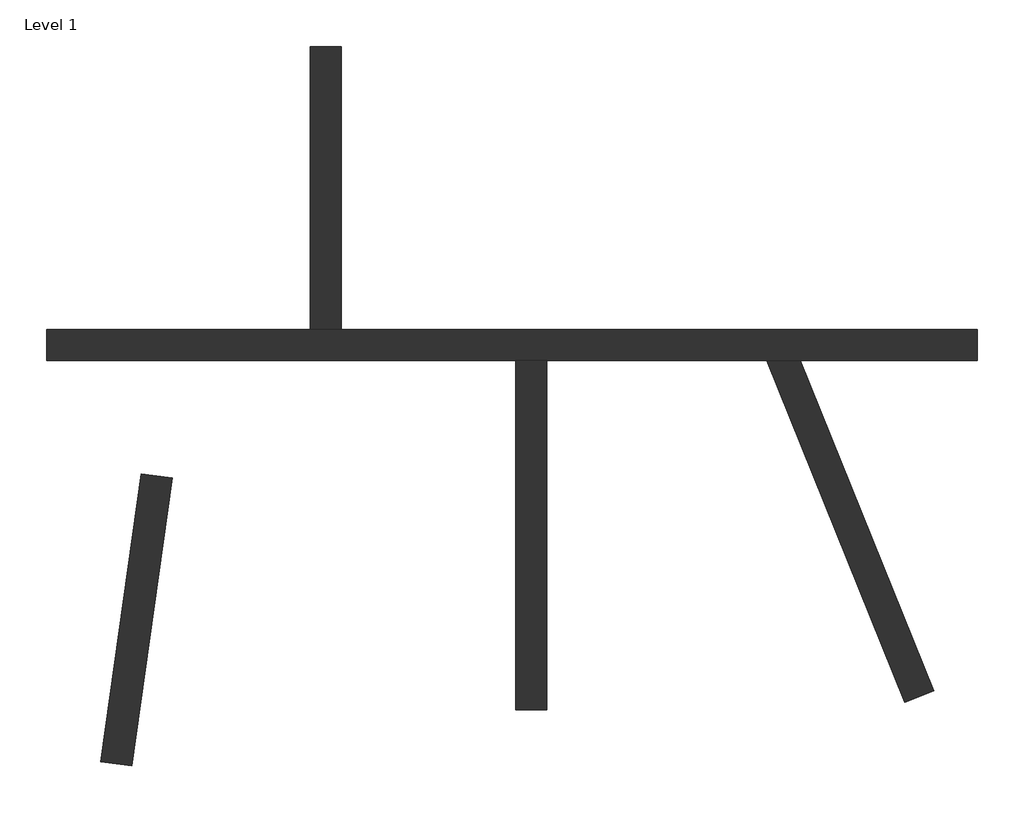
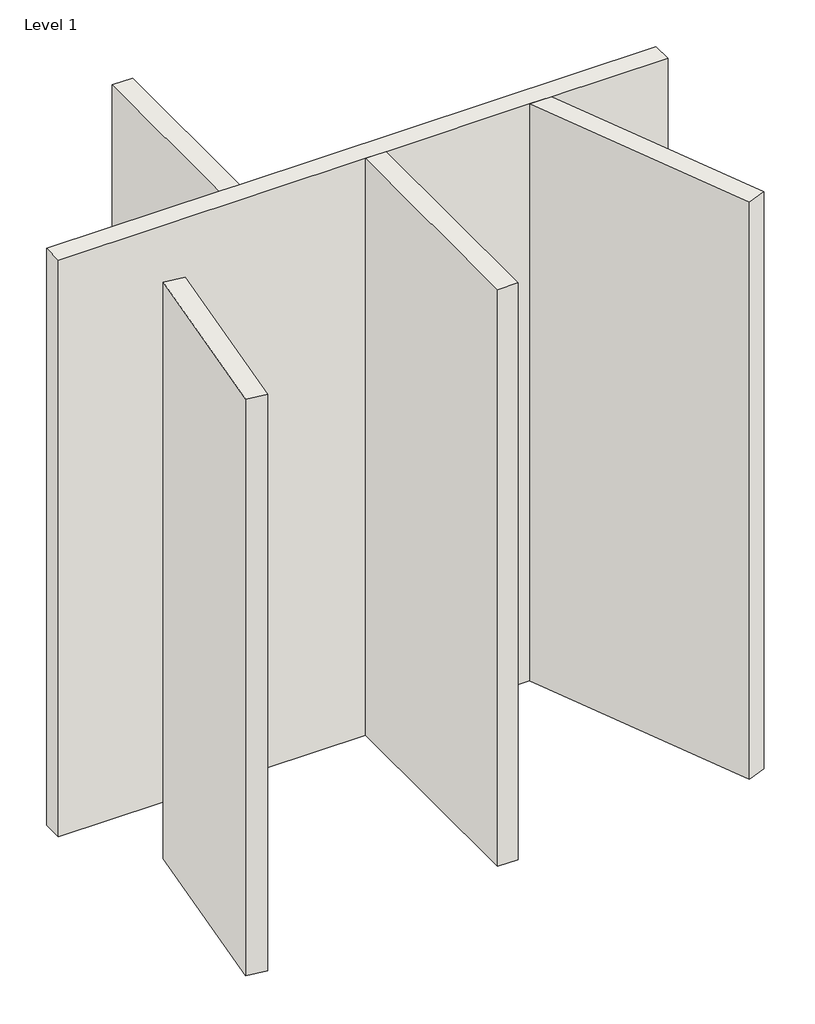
# One storey: 5 walls.
"""IFC4 building model written with IfcOpenShell, lengths in millimetres."""

from ifc_helpers import new_model, si_unit, origin, origin_with_axes, place, context, project, spatial, polyline, outline, extrude, faceted_brep, element, save

model = new_model("IFC4")

# Units and contexts
model_context = context("Model", 3, world=origin())
ifc_project = project(units=[si_unit("LENGTHUNIT", "METRE", prefix="MILLI")], contexts=[model_context])

# Site, building, storey
site = spatial("IfcSite", under=ifc_project)
building = spatial("IfcBuilding", under=site)
storey = spatial("IfcBuildingStorey", under=building, Name="Level 1", Elevation=0.0)

# Walls
placement = place(None, origin())
element("IfcWall", 1, ObjectType="Generic - 8\"", at=placement, inside=storey, context=model_context, shape_type="Brep", body=[
    faceted_brep([(-2311.6602902, -741.8838621, 0.0), (761.7397098, -741.8838621, 0.0), (964.9397098, -741.8838621, 0.0), (2404.0295523, -741.8838621, 0.0), (2623.187812, -741.8838621, 0.0), (3784.3397098, -741.8838621, 0.0), (3784.3397098, -741.8838621, 6096.0), (2623.187812, -741.8838621, 6096.0), (2404.0295523, -741.8838621, 6096.0), (964.9397098, -741.8838621, 6096.0), (761.7397098, -741.8838621, 6096.0), (-2311.6602902, -741.8838621, 6096.0), (-2311.6602902, -538.6838621, 0.0), (-2311.6602902, -538.6838621, 6096.0), (-584.4602902, -538.6838621, 6096.0), (-381.2602902, -538.6838621, 6096.0), (3784.3397098, -538.6838621, 6096.0), (3784.3397098, -538.6838621, 0.0), (-381.2602902, -538.6838621, 0.0), (-584.4602902, -538.6838621, 0.0)], [[[0, 1, 2, 3, 4, 5, 6, 7, 8, 9, 10, 11]], [[12, 13, 14, 15, 16, 17, 18, 19]], [[5, 4, 3, 2, 1, 0, 12, 19, 18, 17]], [[6, 5, 17, 16]], [[11, 10, 9, 8, 7, 6, 16, 15, 14, 13]], [[0, 11, 13, 12]]]),
])
element("IfcWall", 2, ObjectType="Generic - 8\"", at=placement, inside=storey, context=model_context, shape_type="SweptSolid", body=[
    extrude(outline(polyline([(-584.4602902, -538.6838621), (-584.4602902, 1315.5161379), (-381.2602902, 1315.5161379), (-381.2602902, -538.6838621), (-584.4602902, -538.6838621)])), origin_with_axes(), (0.0, 0.0, 1.0), 6096.0),
])
element("IfcWall", 3, ObjectType="Generic - 8\"", at=placement, inside=storey, context=model_context, shape_type="SweptSolid", body=[
    extrude(outline(polyline([(-1955.0715259, -3370.5225949), (-1689.9467686, -1484.061924), (-1488.724297, -1512.3418981), (-1753.8490544, -3398.8025691), (-1955.0715259, -3370.5225949)])), origin_with_axes(), (0.0, 0.0, 1.0), 6096.0),
])
element("IfcWall", 4, ObjectType="Generic - 8\"", at=placement, inside=storey, context=model_context, shape_type="SweptSolid", body=[
    extrude(outline(polyline([(3309.1378302, -2982.1054617), (2404.0295523, -741.8838621), (2623.187812, -741.8838621), (3497.5415895, -2905.9854019), (3309.1378302, -2982.1054617)])), origin_with_axes(), (0.0, 0.0, 1.0), 6096.0),
])
element("IfcWall", 5, ObjectType="Generic - 8\"", at=placement, inside=storey, context=model_context, shape_type="SweptSolid", body=[
    extrude(outline(polyline([(761.7397098, -3030.4352604), (761.7397098, -741.8838621), (964.9397098, -741.8838621), (964.9397098, -3030.4352604), (761.7397098, -3030.4352604)])), origin_with_axes(), (0.0, 0.0, 1.0), 6096.0),
])

save(model, "model.ifc")
